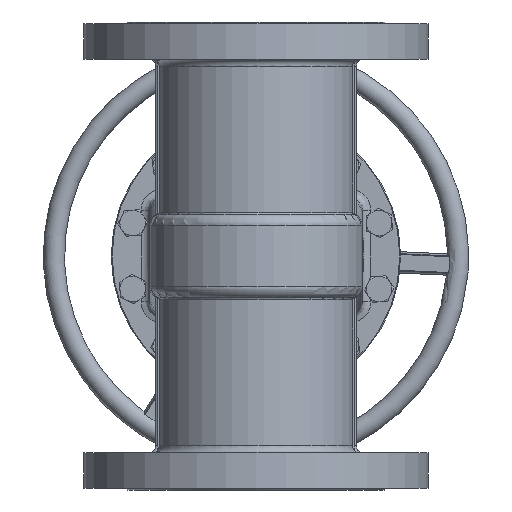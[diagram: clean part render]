
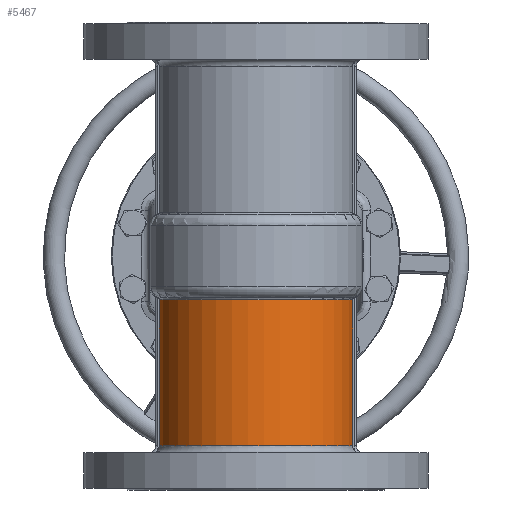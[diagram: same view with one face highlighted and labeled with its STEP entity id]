
A CAD part, front view. The second image highlights one B-rep face of the part: STEP entity #5467.
In plain terms, the highlighted cylindrical face has radius 115 mm (diameter 230 mm), a partial arc.
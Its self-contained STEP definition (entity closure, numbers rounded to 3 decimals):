
#5467=ADVANCED_FACE('',(#17707),#17709,.T.);
#17707=FACE_BOUND('',#17708,.T.);
#17708=EDGE_LOOP('',(#24111,#24112,#24113,#24114));
#17709=CYLINDRICAL_SURFACE('',#17710,115.);
#17710=AXIS2_PLACEMENT_3D('',#17711,#17712,#17713);
#17711=CARTESIAN_POINT('',(0.,0.,-141.));
#17712=DIRECTION('',(0.,0.,1.));
#17713=DIRECTION('',(1.,0.,0.));
#24111=ORIENTED_EDGE('',*,*,#27270,.F.);
#24112=ORIENTED_EDGE('',*,*,#27154,.T.);
#24113=ORIENTED_EDGE('',*,*,#27150,.F.);
#24114=ORIENTED_EDGE('',*,*,#27147,.F.);
#27147=EDGE_CURVE('',#31892,#31895,#31896,.T.);
#27150=EDGE_CURVE('',#31895,#31899,#31900,.T.);
#27154=EDGE_CURVE('',#31903,#31899,#31906,.T.);
#27270=EDGE_CURVE('',#31903,#31892,#32089,.F.);
#31892=VERTEX_POINT('',#66010);
#31895=VERTEX_POINT('',#66015);
#31896=LINE('',#66016,#66017);
#31899=VERTEX_POINT('',#66100);
#31900=CIRCLE('',#66101,115.);
#31903=VERTEX_POINT('',#66176);
#31906=LINE('',#66183,#66184);
#32089=CIRCLE('',#67465,115.);
#66010=CARTESIAN_POINT('',(-113.661,-17.5,-223.));
#66015=CARTESIAN_POINT('',(-113.661,-17.5,-51.492));
#66016=CARTESIAN_POINT('',(-113.661,-17.5,-223.));
#66017=VECTOR('',#66018,1.);
#66018=DIRECTION('',(0.,0.,1.));
#66100=CARTESIAN_POINT('',(113.661,-17.5,-51.492));
#66101=AXIS2_PLACEMENT_3D('',#66102,#66103,#66104);
#66102=CARTESIAN_POINT('',(0.,0.,-51.492));
#66103=DIRECTION('',(0.,0.,1.));
#66104=DIRECTION('',(-0.988,-0.152,0.));
#66176=CARTESIAN_POINT('',(113.661,-17.5,-223.));
#66183=CARTESIAN_POINT('',(113.661,-17.5,-223.));
#66184=VECTOR('',#66185,1.);
#66185=DIRECTION('',(0.,0.,1.));
#67465=AXIS2_PLACEMENT_3D('',#67466,#67467,#67468);
#67466=CARTESIAN_POINT('',(0.,0.,-223.));
#67467=DIRECTION('',(0.,0.,1.));
#67468=DIRECTION('',(-0.988,-0.152,0.));
